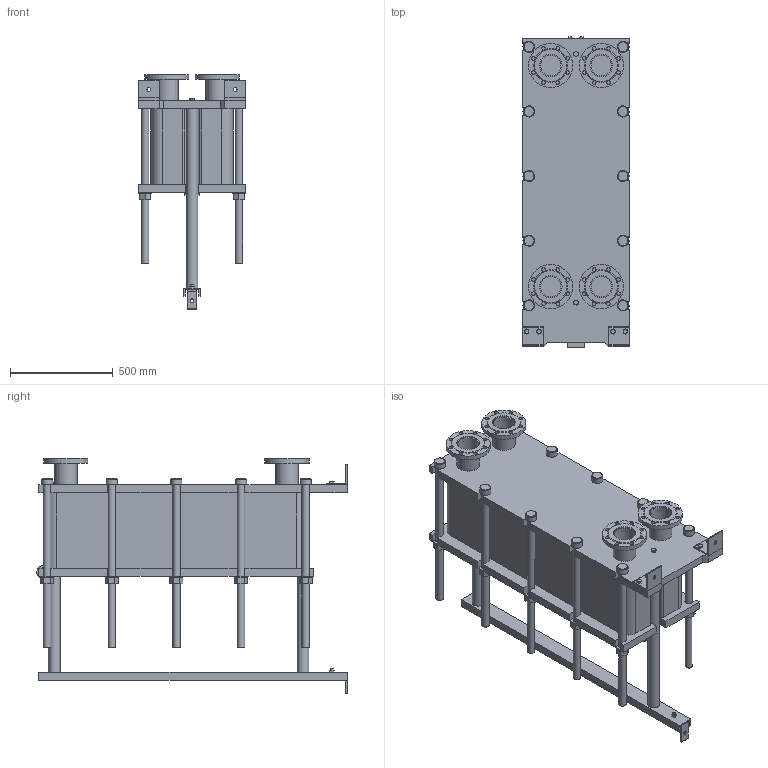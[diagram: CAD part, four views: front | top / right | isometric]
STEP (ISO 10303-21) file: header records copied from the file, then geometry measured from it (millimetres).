
FILE_DESCRIPTION(/* description */ (''),/* implementation_level */ '2;1');
FILE_NAME(/* name */ 'C:\Users\zhuro\Desktop\ENCO\TO\ЭН-04\ЭН-0,5-04-106-1.stp',/* time_stamp */ '2022-06-06T10:54:38+03:00',/* author */ ('zhuro'),/* organization */ (''),/* preprocessor_version */ 'ST-DEVELOPER v18.1',/* originating_system */ 'Autodesk Inventor 2022',/* authorisation */ '');
FILE_SCHEMA (('AUTOMOTIVE_DESIGN { 1 0 10303 214 3 1 1 }'));
Length unit declared in the file: millimetre
Products named in the file (1): ЭН-0,5-04-106-1
Bounding box: 520 x 1510 x 1148 mm (x, y, z)
Volume: 254289632.5 mm3; surface area: 8487202.5 mm2
Topology: 45 solids, 45 shells, 668 faces, 1611 edges, 1048 vertices
Faces by surface type: plane 457, cylinder 166, cone 39, torus 6
Full cylindrical faces by diameter (mm): 8 x4, 10 x2, 16 x8, 18 x35, 36 x25, 40 x2, 42 x1, 45 x4, 54 x10, 57 x2, 60 x10, 68 x2, 100 x4, 110 x8, 215 x4
Entity records: 23607 total; most frequent: CARTESIAN_POINT 7348, DIRECTION 3371, ORIENTED_EDGE 3142, EDGE_CURVE 1571, AXIS2_PLACEMENT_3D 1199, VERTEX_POINT 1044, LINE 973, VECTOR 973
